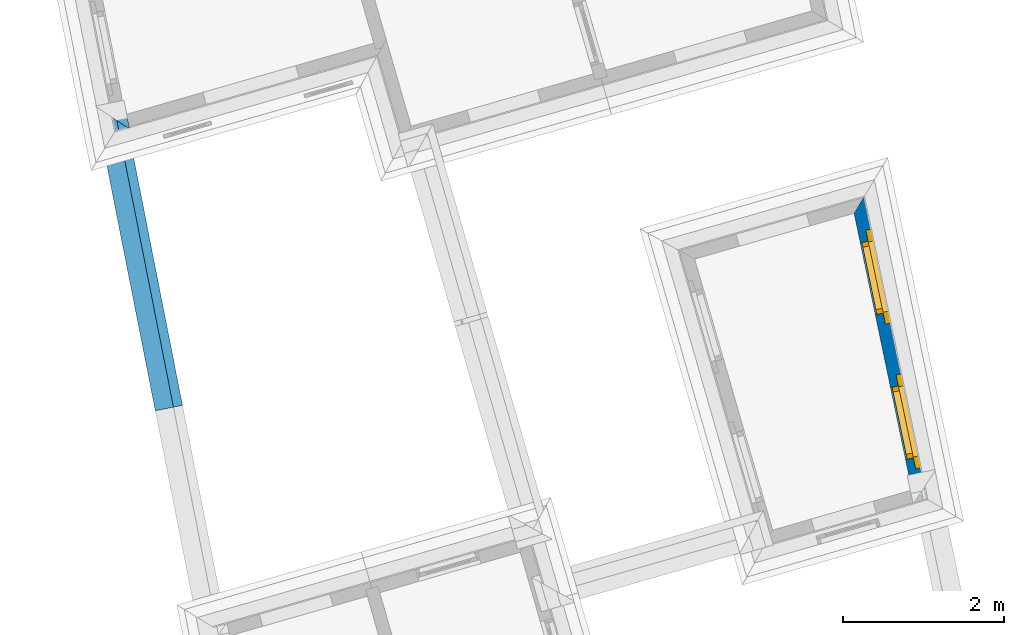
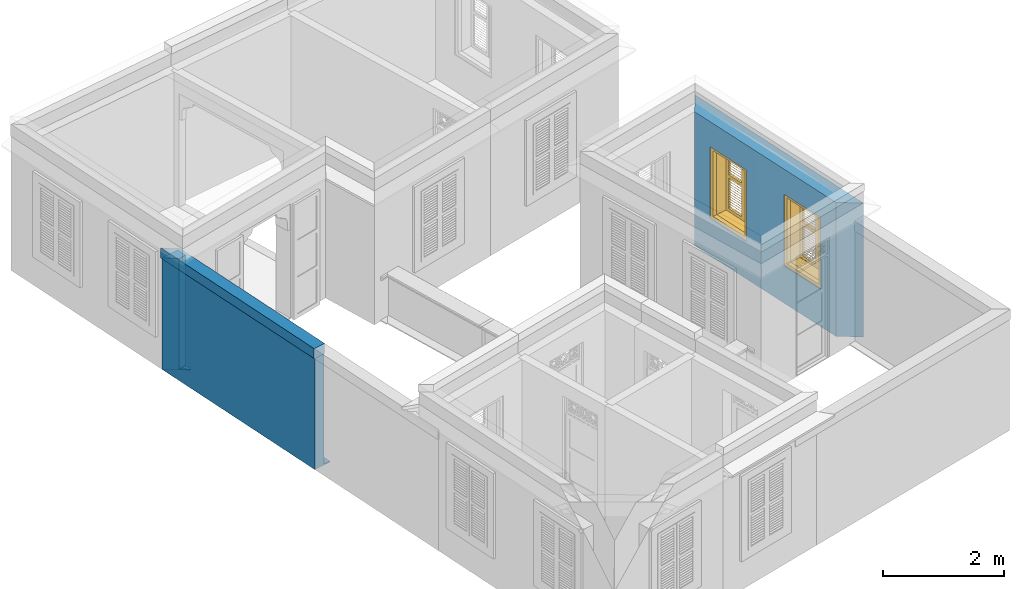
# One storey, part 13 of 22: 4 walls, 2 windows, 2 openings.
"""IFC4 building model written with IfcOpenShell, lengths in metres."""

from ifc_helpers import new_model, si_unit, frame, origin, origin_with_axes, place, context, subcontext, project, spatial, polyline, outline, extrude, clip, halfspace, faceted_brep, source, transform, mapped, material, layer, layer_set, layer_usage, material_profile, profile_set, profile_usage, type_object, type_shapes, element, fill, save


model = new_model("IFC4")

# Units and contexts
model_context = context("Model", 3, world=origin_with_axes())
body_context = subcontext(model_context, "Body", "Model", "MODEL_VIEW")
ifc_project = project(units=[si_unit("PLANEANGLEUNIT", "RADIAN"), si_unit("MASSUNIT", "GRAM", prefix="KILO"), si_unit("FORCEUNIT", "NEWTON", prefix="KILO"), si_unit("LENGTHUNIT", "METRE"), si_unit("AREAUNIT", "SQUARE_METRE"), si_unit("VOLUMEUNIT", "CUBIC_METRE")], contexts=[model_context, model_context])

# Site, building, storey
site_placement = place(None, origin_with_axes())
site = spatial("IfcSite", under=ifc_project, at=site_placement, Name="Site plot-9", CompositionType="ELEMENT")
building_placement = place(None, origin_with_axes())
building = spatial("IfcBuilding", under=site, at=building_placement, Name="Building plot-9", CompositionType="ELEMENT")
storey_placement = place(None, frame((0.0, 0.0, 2.85), z_axis=(0.0, 0.0, 1.0), x_axis=(1.0, 0.0, 0.0)))
storey = spatial("IfcBuildingStorey", under=building, at=storey_placement, Name="plot-9 1", CompositionType="ELEMENT", Elevation=2.85)

# Wall, openings, windows
ifc_material = material(Name="Masonry")
ifc_layer = layer(ifc_material, 0.33, ventilated=False)
ifc_layer_set = layer_set([ifc_layer], Name="exterior_0.08_0.25")
ifc_layer_usage = layer_usage(ifc_layer_set, "AXIS2", "POSITIVE", -0.25)
wall_type_1 = type_object("IfcWallType", Name="exterior_0.08_0.25", PredefinedType="SOLIDWALL", material=ifc_layer_set)
wall_1_placement = place(storey_placement, frame((-12.4069663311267, -0.785351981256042, 0.0), z_axis=(0.0, 0.0, 1.0), x_axis=(-0.204381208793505, 0.978891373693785, 0.0)))
wall_1 = element("IfcWall", 1, at=wall_1_placement, inside=storey, type_object=wall_type_1, material=ifc_layer_usage, Name="exterior", context=body_context, shape_type="SweptSolid", body=[
    extrude(outline(polyline([(0.0742631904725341, 0.0800000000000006), (-0.232072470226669, -0.25), (3.93651179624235, -0.249999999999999), (3.58101939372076, 0.0800000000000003), (0.0742631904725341, 0.0800000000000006)])), origin_with_axes(), (0.0, 0.0, 1.0), 2.7),
])
opening_1_placement = place(wall_1_placement, frame((0.461799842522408, 0.0, 0.75)))
opening_1 = element("IfcOpeningElement", 2, at=opening_1_placement, cuts=wall_1, Name="My Opening", ObjectType="Opening", context=body_context, shape_type="SweptSolid", body=[
    extrude(outline(polyline([(0.0, -0.27), (0.91, -0.27), (0.91, 1.1), (1.11022302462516e-16, 1.1), (0.0, -0.27)])), origin_with_axes(), (0.0, 0.0, 1.0), 1.445),
])
opening_2_placement = place(wall_1_placement, frame((2.29539952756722, 0.0, 0.75)))
opening_2 = element("IfcOpeningElement", 3, at=opening_2_placement, cuts=wall_1, Name="My Opening", ObjectType="Opening", context=body_context, shape_type="SweptSolid", body=[
    extrude(outline(polyline([(0.0, -0.27), (0.91, -0.27), (0.91, 1.1), (0.0, 1.1), (0.0, -0.27)])), origin_with_axes(), (0.0, 0.0, 1.0), 1.445),
])
window_type = type_object("IfcWindowType", Name="shuttered_shorter", PartitioningType="DOUBLE_PANEL_HORIZONTAL", PredefinedType="NOTDEFINED")
shared_shape = source(origin(), body_context, "Body", "Brep", [
    faceted_brep([(0.393, 0.0, 0.622), (0.074, 0.0, 0.622), (0.074, 0.0, 0.632), (0.393, 0.0, 0.632), (0.074, -0.04, 0.592), (0.393, -0.04, 0.592), (0.393, -0.04, 0.582), (0.074, -0.04, 0.582), (0.517, 0.0, 0.682), (0.836, 0.0, 0.682), (0.836, 0.0, 0.672), (0.517, 0.0, 0.672), (0.517, -0.04, 0.642), (0.836, -0.04, 0.642), (0.836, -0.04, 0.632), (0.517, -0.04, 0.632), (0.517, 0.0, 0.632), (0.836, 0.0, 0.632), (0.836, 0.0, 0.622), (0.517, 0.0, 0.622), (0.517, -0.04, 0.592), (0.836, -0.04, 0.592), (0.836, -0.04, 0.582), (0.517, -0.04, 0.582), (0.517, 0.0, 0.232), (0.836, 0.0, 0.232), (0.836, 0.0, 0.222), (0.517, 0.0, 0.222), (0.517, -0.04, 0.192), (0.836, -0.04, 0.192), (0.836, -0.04, 0.182), (0.517, -0.04, 0.182), (0.517, 0.0, 0.532), (0.836, 0.0, 0.532), (0.836, 0.0, 0.522), (0.517, 0.0, 0.522), (0.517, -0.04, 0.492), (0.836, -0.04, 0.492), (0.836, -0.04, 0.482), (0.517, -0.04, 0.482), (0.517, 0.0, 0.482), (0.836, 0.0, 0.482), (0.836, 0.0, 0.472), (0.517, 0.0, 0.472), (0.517, -0.04, 0.442), (0.836, -0.04, 0.442), (0.836, -0.04, 0.432), (0.517, -0.04, 0.432), (0.517, 0.0, 0.582), (0.836, 0.0, 0.582), (0.836, 0.0, 0.572), (0.517, 0.0, 0.572), (0.517, -0.04, 0.542), (0.836, -0.04, 0.542), (0.836, -0.04, 0.532), (0.517, -0.04, 0.532), (0.517, 0.0, 0.182), (0.836, 0.0, 0.182), (0.836, 0.0, 0.172), (0.517, 0.0, 0.172), (0.517, -0.04, 0.142), (0.836, -0.04, 0.142), (0.836, -0.04, 0.132), (0.517, -0.04, 0.132), (0.517, 0.0, 0.382), (0.836, 0.0, 0.382), (0.836, 0.0, 0.372), (0.517, 0.0, 0.372), (0.517, -0.04, 0.342), (0.836, -0.04, 0.342), (0.836, -0.04, 0.332), (0.517, -0.04, 0.332), (0.517, 0.0, 0.432), (0.836, 0.0, 0.432), (0.836, 0.0, 0.422), (0.517, 0.0, 0.422), (0.517, -0.04, 0.392), (0.836, -0.04, 0.392), (0.836, -0.04, 0.382), (0.517, -0.04, 0.382), (0.517, 0.0, 0.132), (0.836, 0.0, 0.132), (0.836, 0.0, 0.122), (0.517, 0.0, 0.122), (0.517, -0.04, 0.092), (0.836, -0.04, 0.092), (0.836, -0.04, 0.082), (0.517, -0.04, 0.082), (0.517, 0.0, 0.282), (0.836, 0.0, 0.282), (0.836, 0.0, 0.272), (0.517, 0.0, 0.272), (0.517, -0.04, 0.242), (0.836, -0.04, 0.242), (0.836, -0.04, 0.232), (0.517, -0.04, 0.232), (0.517, 0.0, 0.332), (0.836, 0.0, 0.332), (0.836, 0.0, 0.322), (0.517, 0.0, 0.322), (0.517, -0.04, 0.292), (0.836, -0.04, 0.292), (0.836, -0.04, 0.282), (0.517, -0.04, 0.282), (0.517, 0.0, 1.362667), (0.836, 0.0, 1.362667), (0.836, 0.0, 1.352667), (0.517, 0.0, 1.352667), (0.517, -0.04, 1.322667), (0.836, -0.04, 1.322667), (0.836, -0.04, 1.312667), (0.517, -0.04, 1.312667), (0.517, 0.0, 1.312667), (0.836, 0.0, 1.312667), (0.836, 0.0, 1.302667), (0.517, 0.0, 1.302667), (0.517, -0.04, 1.272667), (0.836, -0.04, 1.272667), (0.836, -0.04, 1.262667), (0.517, -0.04, 1.262667), (0.517, 0.0, 0.912667), (0.836, 0.0, 0.912667), (0.836, 0.0, 0.902667), (0.517, 0.0, 0.902667), (0.517, -0.04, 0.872667), (0.836, -0.04, 0.872667), (0.836, -0.04, 0.862667), (0.517, -0.04, 0.862667), (0.517, 0.0, 1.212667), (0.836, 0.0, 1.212667), (0.836, 0.0, 1.202667), (0.517, 0.0, 1.202667), (0.517, -0.04, 1.172667), (0.836, -0.04, 1.172667), (0.836, -0.04, 1.162667), (0.517, -0.04, 1.162667), (0.517, 0.0, 1.162667), (0.836, 0.0, 1.162667), (0.836, 0.0, 1.152667), (0.517, 0.0, 1.152667), (0.517, -0.04, 1.122667), (0.836, -0.04, 1.122667), (0.836, -0.04, 1.112667), (0.517, -0.04, 1.112667), (0.517, 0.0, 1.262667), (0.836, 0.0, 1.262667), (0.836, 0.0, 1.252667), (0.517, 0.0, 1.252667), (0.517, -0.04, 1.222667), (0.836, -0.04, 1.222667), (0.836, -0.04, 1.212667), (0.517, -0.04, 1.212667), (0.517, 0.0, 0.862667), (0.836, 0.0, 0.862667), (0.836, 0.0, 0.852667), (0.517, 0.0, 0.852667), (0.517, -0.04, 0.822667), (0.836, -0.04, 0.822667), (0.836, -0.04, 0.812667), (0.517, -0.04, 0.812667), (0.517, 0.0, 1.062667), (0.836, 0.0, 1.062667), (0.836, 0.0, 1.052667), (0.517, 0.0, 1.052667), (0.517, -0.04, 1.022667), (0.836, -0.04, 1.022667), (0.836, -0.04, 1.012667), (0.517, -0.04, 1.012667), (0.517, 0.0, 1.112667), (0.836, 0.0, 1.112667), (0.836, 0.0, 1.102667), (0.517, 0.0, 1.102667), (0.517, -0.04, 1.072667), (0.836, -0.04, 1.072667), (0.836, -0.04, 1.062667), (0.517, -0.04, 1.062667), (0.517, 0.0, 0.812667), (0.836, 0.0, 0.812667), (0.836, 0.0, 0.802667), (0.517, 0.0, 0.802667), (0.517, -0.04, 0.772667), (0.836, -0.04, 0.772667), (0.836, -0.04, 0.762667), (0.517, -0.04, 0.762667), (0.517, 0.0, 0.962667), (0.836, 0.0, 0.962667), (0.836, 0.0, 0.952667), (0.517, 0.0, 0.952667), (0.517, -0.04, 0.922667), (0.836, -0.04, 0.922667), (0.836, -0.04, 0.912667), (0.517, -0.04, 0.912667), (0.517, 0.0, 1.012667), (0.836, 0.0, 1.012667), (0.836, 0.0, 1.002667), (0.517, 0.0, 1.002667), (0.517, -0.04, 0.972667), (0.836, -0.04, 0.972667), (0.836, -0.04, 0.962667), (0.517, -0.04, 0.962667), (0.074, 0.0, 0.682), (0.393, 0.0, 0.682), (0.393, 0.0, 0.672), (0.074, 0.0, 0.672), (0.074, -0.04, 0.642), (0.393, -0.04, 0.642), (0.393, -0.04, 0.632), (0.074, -0.04, 0.632), (0.074, 0.0, 0.232), (0.393, 0.0, 0.232), (0.393, 0.0, 0.222), (0.074, 0.0, 0.222), (0.074, -0.04, 0.192), (0.393, -0.04, 0.192), (0.393, -0.04, 0.182), (0.074, -0.04, 0.182), (0.074, 0.0, 0.532), (0.393, 0.0, 0.532), (0.393, 0.0, 0.522), (0.074, 0.0, 0.522), (0.074, -0.04, 0.492), (0.393, -0.04, 0.492), (0.393, -0.04, 0.482), (0.074, -0.04, 0.482), (0.074, 0.0, 0.482), (0.393, 0.0, 0.482), (0.393, 0.0, 0.472), (0.074, 0.0, 0.472), (0.074, -0.04, 0.442), (0.393, -0.04, 0.442), (0.393, -0.04, 0.432), (0.074, -0.04, 0.432), (0.074, 0.0, 0.582), (0.393, 0.0, 0.582), (0.393, 0.0, 0.572), (0.074, 0.0, 0.572), (0.074, -0.04, 0.542), (0.393, -0.04, 0.542), (0.393, -0.04, 0.532), (0.074, -0.04, 0.532), (0.074, 0.0, 0.182), (0.393, 0.0, 0.182), (0.393, 0.0, 0.172), (0.074, 0.0, 0.172), (0.074, -0.04, 0.142), (0.393, -0.04, 0.142), (0.393, -0.04, 0.132), (0.074, -0.04, 0.132), (0.074, 0.0, 0.382), (0.393, 0.0, 0.382), (0.393, 0.0, 0.372), (0.074, 0.0, 0.372), (0.074, -0.04, 0.342), (0.393, -0.04, 0.342), (0.393, -0.04, 0.332), (0.074, -0.04, 0.332), (0.074, 0.0, 0.432), (0.393, 0.0, 0.432), (0.393, 0.0, 0.422), (0.074, 0.0, 0.422), (0.074, -0.04, 0.392), (0.393, -0.04, 0.392), (0.393, -0.04, 0.382), (0.074, -0.04, 0.382), (0.074, 0.0, 0.132), (0.393, 0.0, 0.132), (0.393, 0.0, 0.122), (0.074, 0.0, 0.122), (0.074, -0.04, 0.092), (0.393, -0.04, 0.092), (0.393, -0.04, 0.082), (0.074, -0.04, 0.082), (0.074, 0.0, 0.282), (0.393, 0.0, 0.282), (0.393, 0.0, 0.272), (0.074, 0.0, 0.272), (0.074, -0.04, 0.242), (0.393, -0.04, 0.242), (0.393, -0.04, 0.232), (0.074, -0.04, 0.232), (0.074, 0.0, 0.332), (0.393, 0.0, 0.332), (0.393, 0.0, 0.322), (0.074, 0.0, 0.322), (0.074, -0.04, 0.292), (0.393, -0.04, 0.292), (0.393, -0.04, 0.282), (0.074, -0.04, 0.282), (0.074, 0.0, 1.362667), (0.393, 0.0, 1.362667), (0.393, 0.0, 1.352667), (0.074, 0.0, 1.352667), (0.074, -0.04, 1.322667), (0.393, -0.04, 1.322667), (0.393, -0.04, 1.312667), (0.074, -0.04, 1.312667), (0.074, 0.0, 1.312667), (0.393, 0.0, 1.312667), (0.393, 0.0, 1.302667), (0.074, 0.0, 1.302667), (0.074, -0.04, 1.272667), (0.393, -0.04, 1.272667), (0.393, -0.04, 1.262667), (0.074, -0.04, 1.262667), (0.074, 0.0, 0.912667), (0.393, 0.0, 0.912667), (0.393, 0.0, 0.902667), (0.074, 0.0, 0.902667), (0.074, -0.04, 0.872667), (0.393, -0.04, 0.872667), (0.393, -0.04, 0.862667), (0.074, -0.04, 0.862667), (0.074, 0.0, 1.212667), (0.393, 0.0, 1.212667), (0.393, 0.0, 1.202667), (0.074, 0.0, 1.202667), (0.074, -0.04, 1.172667), (0.393, -0.04, 1.172667), (0.393, -0.04, 1.162667), (0.074, -0.04, 1.162667), (0.074, 0.0, 1.162667), (0.393, 0.0, 1.162667), (0.393, 0.0, 1.152667), (0.074, 0.0, 1.152667), (0.074, -0.04, 1.122667), (0.393, -0.04, 1.122667), (0.393, -0.04, 1.112667), (0.074, -0.04, 1.112667), (0.074, 0.0, 1.262667), (0.393, 0.0, 1.262667), (0.393, 0.0, 1.252667), (0.074, 0.0, 1.252667), (0.074, -0.04, 1.222667), (0.393, -0.04, 1.222667), (0.393, -0.04, 1.212667), (0.074, -0.04, 1.212667), (0.074, 0.0, 0.862667), (0.393, 0.0, 0.862667), (0.393, 0.0, 0.852667), (0.074, 0.0, 0.852667), (0.074, -0.04, 0.822667), (0.393, -0.04, 0.822667), (0.393, -0.04, 0.812667), (0.074, -0.04, 0.812667), (0.074, 0.0, 1.062667), (0.393, 0.0, 1.062667), (0.393, 0.0, 1.052667), (0.074, 0.0, 1.052667), (0.074, -0.04, 1.022667), (0.393, -0.04, 1.022667), (0.393, -0.04, 1.012667), (0.074, -0.04, 1.012667), (0.074, 0.0, 1.112667), (0.393, 0.0, 1.112667), (0.393, 0.0, 1.102667), (0.074, 0.0, 1.102667), (0.074, -0.04, 1.072667), (0.393, -0.04, 1.072667), (0.393, -0.04, 1.062667), (0.074, -0.04, 1.062667), (0.074, 0.0, 0.812667), (0.393, 0.0, 0.812667), (0.393, 0.0, 0.802667), (0.074, 0.0, 0.802667), (0.074, -0.04, 0.772667), (0.393, -0.04, 0.772667), (0.393, -0.04, 0.762667), (0.074, -0.04, 0.762667), (0.074, 0.0, 0.962667), (0.393, 0.0, 0.962667), (0.393, 0.0, 0.952667), (0.074, 0.0, 0.952667), (0.074, -0.04, 0.922667), (0.393, -0.04, 0.922667), (0.393, -0.04, 0.912667), (0.074, -0.04, 0.912667), (0.074, 0.0, 1.012667), (0.393, 0.0, 1.012667), (0.393, 0.0, 1.002667), (0.074, 0.0, 1.002667), (0.074, -0.04, 0.972667), (0.393, -0.04, 0.972667), (0.393, -0.04, 0.962667), (0.074, -0.04, 0.962667), (0.517, -0.04, 0.072), (0.457, -0.04, 0.012), (0.896, -0.04, 0.012), (0.836, -0.04, 0.072), (0.457, -0.04, 0.692667), (0.517, -0.04, 0.692667), (0.457, 0.0, 0.012), (0.896, 0.0, 0.012), (0.836, -0.04, 0.692667), (0.896, -0.04, 0.692667), (0.836, 0.0, 0.072), (0.517, 0.0, 0.072), (0.457, 0.0, 0.692667), (0.517, 0.0, 0.692667), (0.517, -0.04, 0.752666), (0.457, -0.04, 0.752666), (0.896, 0.0, 0.692667), (0.836, 0.0, 0.692667), (0.836, -0.04, 0.752666), (0.896, -0.04, 0.752666), (0.457, 0.0, 0.752666), (0.457, -0.04, 1.433333), (0.517, -0.04, 1.373333), (0.896, 0.0, 0.752666), (0.836, -0.04, 1.373333), (0.896, -0.04, 1.433333), (0.457, 0.0, 1.433333), (0.517, 0.0, 0.752666), (0.836, 0.0, 0.752666), (0.517, 0.0, 1.373333), (0.896, 0.0, 1.433333), (0.836, 0.0, 1.373333), (0.074, -0.04, 0.072), (0.014, -0.04, 0.012), (0.453, -0.04, 0.012), (0.393, -0.04, 0.072), (0.014, -0.04, 0.692667), (0.074, -0.04, 0.692667), (0.014, 0.0, 0.012), (0.453, 0.0, 0.012), (0.393, -0.04, 0.692667), (0.453, -0.04, 0.692667), (0.393, 0.0, 0.072), (0.074, 0.0, 0.072), (0.014, 0.0, 0.692667), (0.074, 0.0, 0.692667), (0.074, -0.04, 0.752666), (0.014, -0.04, 0.752666), (0.453, 0.0, 0.692667), (0.393, 0.0, 0.692667), (0.393, -0.04, 0.752666), (0.453, -0.04, 0.752666), (0.014, 0.0, 0.752666), (0.014, -0.04, 1.433333), (0.074, -0.04, 1.373333), (0.453, 0.0, 0.752666), (0.393, -0.04, 1.373333), (0.453, -0.04, 1.433333), (0.014, 0.0, 1.433333), (0.074, 0.0, 0.752666), (0.393, 0.0, 0.752666), (0.074, 0.0, 1.373333), (0.453, 0.0, 1.433333), (0.393, 0.0, 1.373333), (0.0, 0.33, 1.445), (0.91, 0.33, 1.445), (0.85, 0.33, 1.385), (0.06, 0.33, 1.385), (0.91, 0.25, 1.445), (0.0, 0.25, 1.445), (0.91, 0.25, 1.445), (0.85, 0.33, 0.06), (0.91, 0.33, 0.0), (0.85, 0.25, 1.385), (0.06, 0.25, 1.385), (0.0, 0.33, 0.0), (0.06, 0.33, 0.06), (0.0, 0.25, 0.0), (0.91, 0.25, 0.0), (0.85, 0.25, 0.06), (0.06, 0.25, 0.06), (1.05, 0.25, 1.585), (-0.14, 0.25, 1.585), (-0.14, -0.03, 1.585), (1.05, -0.03, 1.585), (0.9, -0.03, 1.435), (0.01, -0.03, 1.435), (0.01, 0.25, 1.435), (0.9, 0.25, 1.435), (0.9, 0.25, 0.01), (0.9, -0.03, 0.01), (1.05, -0.03, -0.14), (1.05, 0.25, -0.14), (0.01, -0.03, 0.01), (0.01, 0.25, 0.01), (-0.14, -0.03, -0.14), (-0.14, 0.25, -0.14)], [[[0, 1, 2, 3]], [[4, 5, 3, 2]], [[5, 6, 0, 3]], [[1, 0, 6, 7]], [[2, 1, 7, 4]], [[5, 4, 7, 6]], [[8, 9, 10, 11]], [[12, 13, 9, 8]], [[13, 14, 10, 9]], [[14, 15, 11, 10]], [[15, 12, 8, 11]], [[13, 12, 15, 14]], [[16, 17, 18, 19]], [[20, 21, 17, 16]], [[21, 22, 18, 17]], [[22, 23, 19, 18]], [[23, 20, 16, 19]], [[21, 20, 23, 22]], [[24, 25, 26, 27]], [[28, 29, 25, 24]], [[29, 30, 26, 25]], [[30, 31, 27, 26]], [[31, 28, 24, 27]], [[29, 28, 31, 30]], [[32, 33, 34, 35]], [[36, 37, 33, 32]], [[37, 38, 34, 33]], [[38, 39, 35, 34]], [[39, 36, 32, 35]], [[37, 36, 39, 38]], [[40, 41, 42, 43]], [[44, 45, 41, 40]], [[45, 46, 42, 41]], [[46, 47, 43, 42]], [[47, 44, 40, 43]], [[45, 44, 47, 46]], [[48, 49, 50, 51]], [[52, 53, 49, 48]], [[53, 54, 50, 49]], [[54, 55, 51, 50]], [[55, 52, 48, 51]], [[53, 52, 55, 54]], [[56, 57, 58, 59]], [[60, 61, 57, 56]], [[61, 62, 58, 57]], [[62, 63, 59, 58]], [[63, 60, 56, 59]], [[61, 60, 63, 62]], [[64, 65, 66, 67]], [[68, 69, 65, 64]], [[69, 70, 66, 65]], [[70, 71, 67, 66]], [[71, 68, 64, 67]], [[69, 68, 71, 70]], [[72, 73, 74, 75]], [[76, 77, 73, 72]], [[77, 78, 74, 73]], [[78, 79, 75, 74]], [[79, 76, 72, 75]], [[77, 76, 79, 78]], [[80, 81, 82, 83]], [[84, 85, 81, 80]], [[85, 86, 82, 81]], [[86, 87, 83, 82]], [[87, 84, 80, 83]], [[85, 84, 87, 86]], [[88, 89, 90, 91]], [[92, 93, 89, 88]], [[93, 94, 90, 89]], [[94, 95, 91, 90]], [[95, 92, 88, 91]], [[93, 92, 95, 94]], [[96, 97, 98, 99]], [[100, 101, 97, 96]], [[101, 102, 98, 97]], [[102, 103, 99, 98]], [[103, 100, 96, 99]], [[101, 100, 103, 102]], [[104, 105, 106, 107]], [[108, 109, 105, 104]], [[109, 110, 106, 105]], [[110, 111, 107, 106]], [[111, 108, 104, 107]], [[109, 108, 111, 110]], [[112, 113, 114, 115]], [[116, 117, 113, 112]], [[117, 118, 114, 113]], [[118, 119, 115, 114]], [[119, 116, 112, 115]], [[117, 116, 119, 118]], [[120, 121, 122, 123]], [[124, 125, 121, 120]], [[125, 126, 122, 121]], [[126, 127, 123, 122]], [[127, 124, 120, 123]], [[125, 124, 127, 126]], [[128, 129, 130, 131]], [[132, 133, 129, 128]], [[133, 134, 130, 129]], [[134, 135, 131, 130]], [[135, 132, 128, 131]], [[133, 132, 135, 134]], [[136, 137, 138, 139]], [[140, 141, 137, 136]], [[141, 142, 138, 137]], [[142, 143, 139, 138]], [[139, 143, 140, 136]], [[141, 140, 143, 142]], [[144, 145, 146, 147]], [[148, 149, 145, 144]], [[149, 150, 146, 145]], [[150, 151, 147, 146]], [[151, 148, 144, 147]], [[149, 148, 151, 150]], [[152, 153, 154, 155]], [[156, 157, 153, 152]], [[157, 158, 154, 153]], [[158, 159, 155, 154]], [[159, 156, 152, 155]], [[157, 156, 159, 158]], [[160, 161, 162, 163]], [[164, 165, 161, 160]], [[165, 166, 162, 161]], [[166, 167, 163, 162]], [[167, 164, 160, 163]], [[165, 164, 167, 166]], [[168, 169, 170, 171]], [[172, 173, 169, 168]], [[173, 174, 170, 169]], [[174, 175, 171, 170]], [[175, 172, 168, 171]], [[173, 172, 175, 174]], [[176, 177, 178, 179]], [[180, 181, 177, 176]], [[181, 182, 178, 177]], [[182, 183, 179, 178]], [[183, 180, 176, 179]], [[181, 180, 183, 182]], [[184, 185, 186, 187]], [[188, 189, 185, 184]], [[189, 190, 186, 185]], [[190, 191, 187, 186]], [[191, 188, 184, 187]], [[189, 188, 191, 190]], [[192, 193, 194, 195]], [[196, 197, 193, 192]], [[197, 198, 194, 193]], [[198, 199, 195, 194]], [[199, 196, 192, 195]], [[197, 196, 199, 198]], [[200, 201, 202, 203]], [[204, 205, 201, 200]], [[205, 206, 202, 201]], [[206, 207, 203, 202]], [[207, 204, 200, 203]], [[205, 204, 207, 206]], [[208, 209, 210, 211]], [[212, 213, 209, 208]], [[213, 214, 210, 209]], [[214, 215, 211, 210]], [[215, 212, 208, 211]], [[213, 212, 215, 214]], [[216, 217, 218, 219]], [[220, 221, 217, 216]], [[221, 222, 218, 217]], [[222, 223, 219, 218]], [[223, 220, 216, 219]], [[221, 220, 223, 222]], [[224, 225, 226, 227]], [[228, 229, 225, 224]], [[229, 230, 226, 225]], [[230, 231, 227, 226]], [[231, 228, 224, 227]], [[229, 228, 231, 230]], [[232, 233, 234, 235]], [[236, 237, 233, 232]], [[237, 238, 234, 233]], [[238, 239, 235, 234]], [[239, 236, 232, 235]], [[237, 236, 239, 238]], [[240, 241, 242, 243]], [[244, 245, 241, 240]], [[245, 246, 242, 241]], [[246, 247, 243, 242]], [[247, 244, 240, 243]], [[245, 244, 247, 246]], [[248, 249, 250, 251]], [[252, 253, 249, 248]], [[253, 254, 250, 249]], [[254, 255, 251, 250]], [[255, 252, 248, 251]], [[253, 252, 255, 254]], [[256, 257, 258, 259]], [[260, 261, 257, 256]], [[261, 262, 258, 257]], [[262, 263, 259, 258]], [[263, 260, 256, 259]], [[261, 260, 263, 262]], [[264, 265, 266, 267]], [[268, 269, 265, 264]], [[269, 270, 266, 265]], [[270, 271, 267, 266]], [[271, 268, 264, 267]], [[269, 268, 271, 270]], [[272, 273, 274, 275]], [[276, 277, 273, 272]], [[277, 278, 274, 273]], [[278, 279, 275, 274]], [[279, 276, 272, 275]], [[277, 276, 279, 278]], [[280, 281, 282, 283]], [[284, 285, 281, 280]], [[285, 286, 282, 281]], [[286, 287, 283, 282]], [[287, 284, 280, 283]], [[285, 284, 287, 286]], [[288, 289, 290, 291]], [[292, 293, 289, 288]], [[293, 294, 290, 289]], [[294, 295, 291, 290]], [[295, 292, 288, 291]], [[293, 292, 295, 294]], [[296, 297, 298, 299]], [[300, 301, 297, 296]], [[301, 302, 298, 297]], [[302, 303, 299, 298]], [[303, 300, 296, 299]], [[301, 300, 303, 302]], [[304, 305, 306, 307]], [[308, 309, 305, 304]], [[309, 310, 306, 305]], [[310, 311, 307, 306]], [[311, 308, 304, 307]], [[309, 308, 311, 310]], [[312, 313, 314, 315]], [[316, 317, 313, 312]], [[317, 318, 314, 313]], [[318, 319, 315, 314]], [[319, 316, 312, 315]], [[317, 316, 319, 318]], [[320, 321, 322, 323]], [[324, 325, 321, 320]], [[325, 326, 322, 321]], [[326, 327, 323, 322]], [[327, 324, 320, 323]], [[325, 324, 327, 326]], [[328, 329, 330, 331]], [[332, 333, 329, 328]], [[333, 334, 330, 329]], [[334, 335, 331, 330]], [[335, 332, 328, 331]], [[333, 332, 335, 334]], [[336, 337, 338, 339]], [[340, 341, 337, 336]], [[341, 342, 338, 337]], [[342, 343, 339, 338]], [[343, 340, 336, 339]], [[341, 340, 343, 342]], [[344, 345, 346, 347]], [[348, 349, 345, 344]], [[349, 350, 346, 345]], [[350, 351, 347, 346]], [[351, 348, 344, 347]], [[349, 348, 351, 350]], [[352, 353, 354, 355]], [[356, 357, 353, 352]], [[357, 358, 354, 353]], [[358, 359, 355, 354]], [[359, 356, 352, 355]], [[357, 356, 359, 358]], [[360, 361, 362, 363]], [[364, 365, 361, 360]], [[365, 366, 362, 361]], [[366, 367, 363, 362]], [[367, 364, 360, 363]], [[365, 364, 367, 366]], [[368, 369, 370, 371]], [[372, 373, 369, 368]], [[373, 374, 370, 369]], [[374, 375, 371, 370]], [[375, 372, 368, 371]], [[373, 372, 375, 374]], [[376, 377, 378, 379]], [[380, 381, 377, 376]], [[381, 382, 378, 377]], [[382, 383, 379, 378]], [[383, 380, 376, 379]], [[381, 380, 383, 382]], [[384, 385, 386, 387]], [[388, 385, 384, 389]], [[390, 391, 386, 385]], [[392, 387, 386, 393]], [[384, 387, 394, 395]], [[390, 385, 388, 396]], [[389, 384, 395, 397]], [[389, 398, 399, 388]], [[390, 395, 394, 391]], [[400, 393, 386, 391]], [[387, 392, 401, 394]], [[402, 392, 393, 403]], [[396, 388, 399, 404]], [[390, 396, 397, 395]], [[392, 389, 397, 401]], [[398, 389, 392, 402]], [[405, 399, 398, 406]], [[394, 401, 400, 391]], [[407, 403, 393, 400]], [[408, 402, 403, 409]], [[404, 399, 405, 410]], [[411, 397, 396, 404]], [[397, 411, 412, 401]], [[398, 402, 412, 411]], [[406, 398, 411, 413]], [[405, 406, 408, 409]], [[401, 412, 407, 400]], [[414, 409, 403, 407]], [[402, 408, 415, 412]], [[405, 409, 414, 410]], [[404, 410, 413, 411]], [[408, 406, 413, 415]], [[412, 415, 414, 407]], [[413, 410, 414, 415]], [[416, 417, 418, 419]], [[420, 417, 416, 421]], [[422, 423, 418, 417]], [[424, 419, 418, 425]], [[416, 419, 426, 427]], [[422, 417, 420, 428]], [[421, 416, 427, 429]], [[421, 430, 431, 420]], [[422, 427, 426, 423]], [[432, 425, 418, 423]], [[419, 424, 433, 426]], [[434, 424, 425, 435]], [[428, 420, 431, 436]], [[422, 428, 429, 427]], [[424, 421, 429, 433]], [[430, 421, 424, 434]], [[437, 431, 430, 438]], [[426, 433, 432, 423]], [[439, 435, 425, 432]], [[440, 434, 435, 441]], [[436, 431, 437, 442]], [[443, 429, 428, 436]], [[429, 443, 444, 433]], [[430, 434, 444, 443]], [[438, 430, 443, 445]], [[437, 438, 440, 441]], [[433, 444, 439, 432]], [[446, 441, 435, 439]], [[434, 440, 447, 444]], [[437, 441, 446, 442]], [[436, 442, 445, 443]], [[440, 438, 445, 447]], [[444, 447, 446, 439]], [[445, 442, 446, 447]], [[448, 449, 450, 451]], [[452, 449, 448]], [[448, 453, 454]], [[448, 454, 452]], [[455, 450, 449, 456]], [[451, 450, 457, 458]], [[459, 448, 451, 460]], [[448, 459, 461, 453]], [[454, 453, 458, 457]], [[462, 452, 454]], [[454, 457, 463]], [[454, 463, 462]], [[456, 449, 452, 462]], [[450, 455, 463, 457]], [[456, 459, 460, 455]], [[460, 451, 458, 464]], [[459, 456, 462, 461]], [[464, 458, 453, 461]], [[461, 462, 463, 464]], [[455, 460, 464, 463]], [[465, 466, 467, 468]], [[469, 470, 471, 472]], [[473, 474, 469, 472]], [[465, 468, 475, 476]], [[470, 477, 478, 471]], [[474, 473, 478, 477]], [[474, 477, 479, 475]], [[470, 467, 479, 477]], [[470, 469, 468, 467]], [[474, 475, 468, 469]], [[471, 478, 480, 466]], [[473, 472, 465, 476]], [[473, 476, 480, 478]], [[466, 465, 472, 471]], [[480, 476, 475, 479]], [[480, 479, 467, 466]]]),
])
type_shapes(window_type, [shared_shape])
window_1_placement = place(storey_placement, frame((-12.2370488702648, -0.278117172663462, 0.75), z_axis=(0.0, 0.0, 1.0), x_axis=(-0.18598690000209, 0.890791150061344, 0.0)))
window_1 = element("IfcWindow", 4, at=window_1_placement, inside=storey, type_object=window_type, Name="bedroom outside window", OverallHeight=1.445, OverallWidth=0.91, context=body_context, shape_type="MappedRepresentation", body=[
    mapped(shared_shape, transform((0.0, 0.0, 0.0), scale=1.0)),
])
fill(opening_1, window_1)
window_2_placement = place(storey_placement, frame((-12.6118021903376, 1.51677774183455, 0.75), z_axis=(0.0, 0.0, 1.0), x_axis=(-0.18598690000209, 0.890791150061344, 0.0)))
window_2 = element("IfcWindow", 5, at=window_2_placement, inside=storey, type_object=window_type, Name="bedroom outside window", OverallHeight=1.445, OverallWidth=0.91, context=body_context, shape_type="MappedRepresentation", body=[
    mapped(shared_shape, transform((0.0, 0.0, 0.0), scale=1.0)),
])
fill(opening_2, window_2)

# Walls
ifc_material_profile_1 = material_profile(None, outline(polyline([(0.25, 0.0), (0.25, 2.245), (0.05, 2.245), (0.05, 0.02), (-0.08, 0.02), (-0.08, 0.0), (0.25, 0.0)])))
ifc_profile_set_1 = profile_set([ifc_material_profile_1])
ifc_profile_usage_1 = profile_usage(ifc_profile_set_1)
wall_type_2 = type_object("IfcWallType", Name="parapet street_0", PredefinedType="PARAPET", material=ifc_profile_set_1)
wall_2_placement = place(storey_placement, frame((-23.2989770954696, 3.63143308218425, 0.0), z_axis=(0.981065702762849, 0.193675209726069, 0.0), x_axis=(-0.193675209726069, 0.981065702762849, 0.0)))
element("IfcWall", 6, at=wall_2_placement, inside=storey, type_object=wall_type_2, material=ifc_profile_usage_1, Name="parapet street_0", context=body_context, shape_type="Clipping", body=[
    clip(clip(extrude(outline(polyline([(0.25, 0.0), (0.25, 2.245), (0.05, 2.245), (0.05, 0.02), (-0.08, 0.02), (-0.08, 0.0), (0.25, 0.0)])), origin_with_axes(), (0.0, 0.0, 1.0), 2.1), halfspace(frame((0.0, 0.0, 1.1), z_axis=(-9.49410759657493e-16, 0.0, -1.0), x_axis=(0.0, 1.0, 0.0)), True)), halfspace(frame((0.0, 0.0, 1.0), z_axis=(-0.707106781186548, 0.0, -0.707106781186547), x_axis=(0.0, 1.0, 0.0)), False)),
])
ifc_profile_usage_2 = profile_usage(ifc_profile_set_1)
wall_3_placement = place(storey_placement, frame((-21.4294337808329, -0.675493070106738, 0.0), z_axis=(-0.193675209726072, 0.981065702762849, 0.0), x_axis=(-0.981065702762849, -0.193675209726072, 0.0)))
element("IfcWall", 7, at=wall_3_placement, inside=storey, type_object=wall_type_2, material=ifc_profile_usage_2, Name="parapet street_0", context=body_context, shape_type="Clipping", body=[
    clip(clip(extrude(outline(polyline([(0.25, 0.0), (0.25, 2.245), (0.05, 2.245), (0.05, 0.02), (-0.08, 0.02), (-0.08, 0.0), (0.25, 0.0)])), origin_with_axes(), (0.0, 0.0, 1.0), 5.58746172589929), halfspace(frame((0.0, 0.0, 4.58746172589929), z_axis=(0.707106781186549, 0.0, -0.707106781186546), x_axis=(0.0, 1.0, 0.0)), True)), halfspace(frame((0.0, 0.0, 1.0), z_axis=(1.60812264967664e-16, 0.0, -1.0), x_axis=(0.0, 1.0, 0.0)), False)),
])
ifc_material_profile_2 = material_profile(None, outline(polyline([(0.265, 2.245), (0.265, 2.445), (0.035, 2.445), (0.035, 2.245), (0.265, 2.245)])))
ifc_profile_set_2 = profile_set([ifc_material_profile_2])
ifc_profile_usage_3 = profile_usage(ifc_profile_set_2)
wall_type_3 = type_object("IfcWallType", Name="parapet street_1", PredefinedType="PARAPET", material=ifc_profile_set_2)
wall_4_placement = place(storey_placement, frame((-21.4294337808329, -0.675493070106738, 0.0), z_axis=(-0.193675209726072, 0.981065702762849, 0.0), x_axis=(-0.981065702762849, -0.193675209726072, 0.0)))
element("IfcWall", 8, at=wall_4_placement, inside=storey, type_object=wall_type_3, material=ifc_profile_usage_3, Name="parapet street_1", context=body_context, shape_type="Clipping", body=[
    clip(clip(extrude(outline(polyline([(0.265, 2.245), (0.265, 2.445), (0.035, 2.445), (0.035, 2.245), (0.265, 2.245)])), origin_with_axes(), (0.0, 0.0, 1.0), 5.58746172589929), halfspace(frame((0.0, 0.0, 4.58746172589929), z_axis=(0.707106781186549, 0.0, -0.707106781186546), x_axis=(0.0, 1.0, 0.0)), True)), halfspace(frame((0.0, 0.0, 1.0), z_axis=(1.60812264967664e-16, 0.0, -1.0), x_axis=(0.0, 1.0, 0.0)), False)),
])

save(model, "model.ifc")
